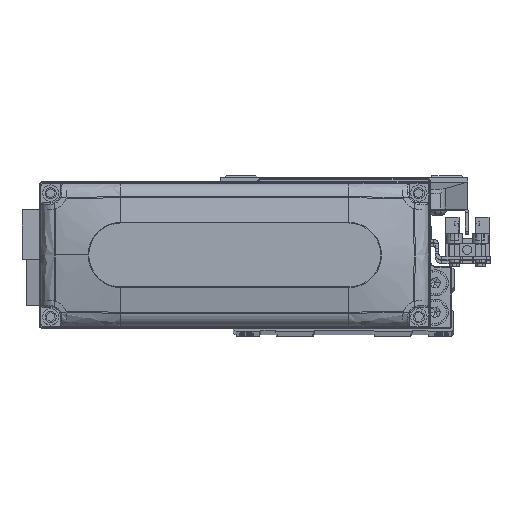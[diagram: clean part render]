
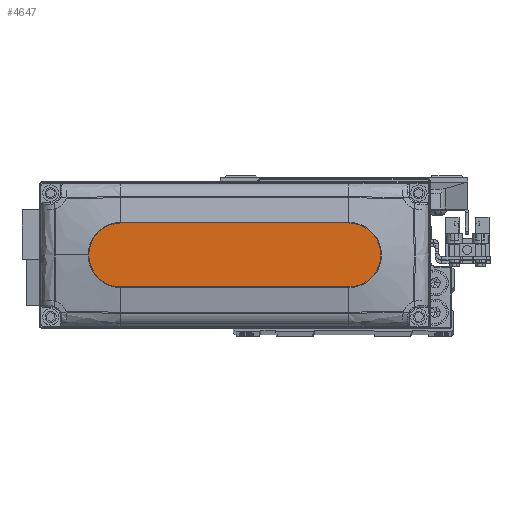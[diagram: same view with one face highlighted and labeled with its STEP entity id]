
A CAD part, top view. The second image highlights one B-rep face of the part: STEP entity #4647.
In plain terms, the highlighted planar face has unit normal (0, 0, 1).
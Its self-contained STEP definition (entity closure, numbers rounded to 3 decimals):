
#1570 = VERTEX_POINT ( 'NONE', #33609 ) ;
#1815 = DIRECTION ( 'NONE',  ( 1., 0., 0. ) ) ;
#2028 = LINE ( 'NONE', #16372, #41423 ) ;
#4095 = CARTESIAN_POINT ( 'NONE',  ( -35., 10., 28. ) ) ;
#4620 = ORIENTED_EDGE ( 'NONE', *, *, #22416, .T. ) ;
#4647 = ADVANCED_FACE ( 'NONE', ( #45077 ), #12968, .T. ) ;
#5469 = AXIS2_PLACEMENT_3D ( 'NONE', #10598, #24885, #39201 ) ;
#6346 = CARTESIAN_POINT ( 'NONE',  ( -35., 0., 28. ) ) ;
#9441 = DIRECTION ( 'NONE',  ( 1., 0., 0. ) ) ;
#9787 = CARTESIAN_POINT ( 'NONE',  ( 35., 10., 28. ) ) ;
#10598 = CARTESIAN_POINT ( 'NONE',  ( 35., 0., 28. ) ) ;
#10950 = AXIS2_PLACEMENT_3D ( 'NONE', #19670, #33959, #1815 ) ;
#11446 = AXIS2_PLACEMENT_3D ( 'NONE', #6346, #20674, #34970 ) ;
#12211 = EDGE_LOOP ( 'NONE', ( #31384, #42373, #32686, #40850, #4620 ) ) ;
#12968 = PLANE ( 'NONE',  #39979 ) ;
#13399 = DIRECTION ( 'NONE',  ( 1., 0., 0. ) ) ;
#14673 = VERTEX_POINT ( 'NONE', #37785 ) ;
#16372 = CARTESIAN_POINT ( 'NONE',  ( -35., 10., 28. ) ) ;
#19541 = EDGE_CURVE ( 'NONE', #21924, #14673, #25698, .T. ) ;
#19670 = CARTESIAN_POINT ( 'NONE',  ( 35., 0., 28. ) ) ;
#20674 = DIRECTION ( 'NONE',  ( 0., 0., 1. ) ) ;
#21924 = VERTEX_POINT ( 'NONE', #43952 ) ;
#22416 = EDGE_CURVE ( 'NONE', #14673, #30157, #31151, .T. ) ;
#24885 = DIRECTION ( 'NONE',  ( 0., 0., 1. ) ) ;
#25698 = CIRCLE ( 'NONE', #5469, 10. ) ;
#27247 = CARTESIAN_POINT ( 'NONE',  ( 0., 0., 28. ) ) ;
#27393 = VECTOR ( 'NONE', #13399, 1000. ) ;
#28343 = EDGE_CURVE ( 'NONE', #1570, #21924, #31176, .T. ) ;
#30157 = VERTEX_POINT ( 'NONE', #9787 ) ;
#30648 = DIRECTION ( 'NONE',  ( -1., 0., 0. ) ) ;
#31151 = CIRCLE ( 'NONE', #10950, 10. ) ;
#31176 = LINE ( 'NONE', #45515, #27393 ) ;
#31384 = ORIENTED_EDGE ( 'NONE', *, *, #44267, .T. ) ;
#31637 = CIRCLE ( 'NONE', #11446, 10. ) ;
#32686 = ORIENTED_EDGE ( 'NONE', *, *, #28343, .T. ) ;
#33609 = CARTESIAN_POINT ( 'NONE',  ( -35., -10., 28. ) ) ;
#33959 = DIRECTION ( 'NONE',  ( 0., 0., 1. ) ) ;
#34970 = DIRECTION ( 'NONE',  ( 1., 0., 0. ) ) ;
#37785 = CARTESIAN_POINT ( 'NONE',  ( 45., 0., 28. ) ) ;
#39201 = DIRECTION ( 'NONE',  ( 1., 0., 0. ) ) ;
#39979 = AXIS2_PLACEMENT_3D ( 'NONE', #27247, #41555, #9441 ) ;
#40850 = ORIENTED_EDGE ( 'NONE', *, *, #19541, .T. ) ;
#41423 = VECTOR ( 'NONE', #30648, 1000. ) ;
#41555 = DIRECTION ( 'NONE',  ( 0., 0., 1. ) ) ;
#42214 = EDGE_CURVE ( 'NONE', #43322, #1570, #31637, .T. ) ;
#42373 = ORIENTED_EDGE ( 'NONE', *, *, #42214, .T. ) ;
#43322 = VERTEX_POINT ( 'NONE', #4095 ) ;
#43952 = CARTESIAN_POINT ( 'NONE',  ( 35., -10., 28. ) ) ;
#44267 = EDGE_CURVE ( 'NONE', #30157, #43322, #2028, .T. ) ;
#45077 = FACE_OUTER_BOUND ( 'NONE', #12211, .T. ) ;
#45515 = CARTESIAN_POINT ( 'NONE',  ( -35., -10., 28. ) ) ;
